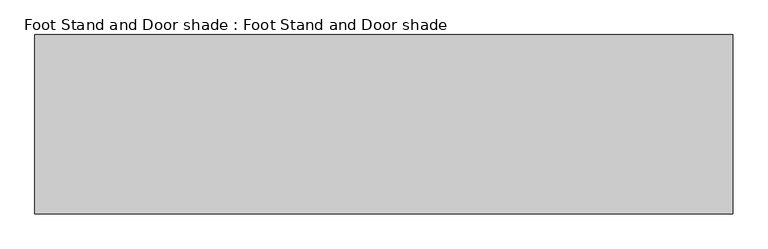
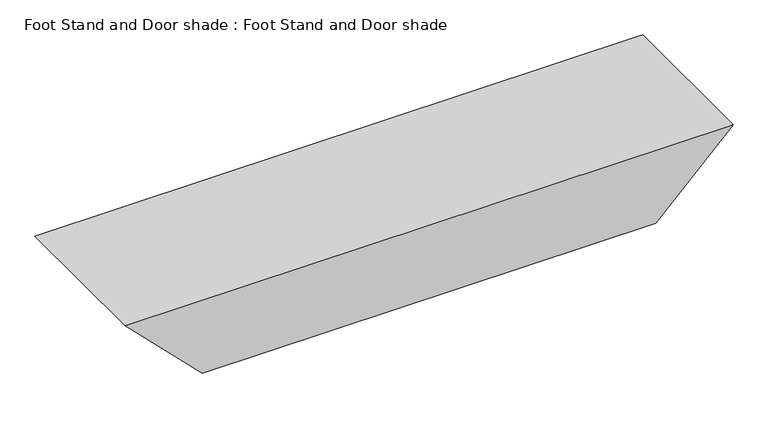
"""IFC4 building model written with IfcOpenShell, lengths in millimetres: beam geometry, Foot Stand and Door shade : Foot Stand and Door shade."""

from ifc_helpers import new_model, si_unit, frame, origin, place, context, project, spatial, polyline, outline, extrude, source, transform, mapped, element, save


def foot_stand_and_door_shade_foot_stand_and_door_shade_05bf400a(model_context):
    return source(origin(), model_context, "Body", "SweptSolid", [
        extrude(outline(polyline([(2687.876, 60.3806761), (2537.0, 211.2566761), (2537.0, 1096.3038922), (2687.876, 1247.1798922), (2687.876, 60.3806761)])), frame((0.0, -554.0, 0.0), z_axis=(0.0, 1.0, 0.0), x_axis=(0.0, 0.0, 1.0)), (0.0, 0.0, 1.0), 305.0),
    ])


if __name__ == "__main__":
    model = new_model("IFC4")
    model_context = context("Model", 3, world=origin())
    ifc_project = project(units=[si_unit("LENGTHUNIT", "METRE", prefix="MILLI")], contexts=[model_context])
    site = spatial("IfcSite", under=ifc_project)
    building = spatial("IfcBuilding", under=site)
    placement = place(None, origin())
    foot_stand_and_door_shade_foot_stand_and_door_shade_shape = foot_stand_and_door_shade_foot_stand_and_door_shade_05bf400a(model_context)
    element("IfcBeam", 1, ObjectType="Foot Stand and Door shade : Foot Stand and Door shade", at=placement, inside=building, context=model_context, shape_type="MappedRepresentation", body=[
        mapped(foot_stand_and_door_shade_foot_stand_and_door_shade_shape, transform((0.0, 0.0, 0.0), x_axis=(1.0, 0.0, 0.0), y_axis=(0.0, 1.0, 0.0), z_axis=(0.0, 0.0, 1.0))),
    ])
    save(model, "model.ifc")
